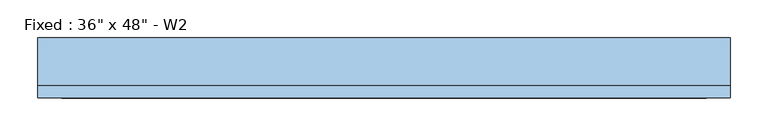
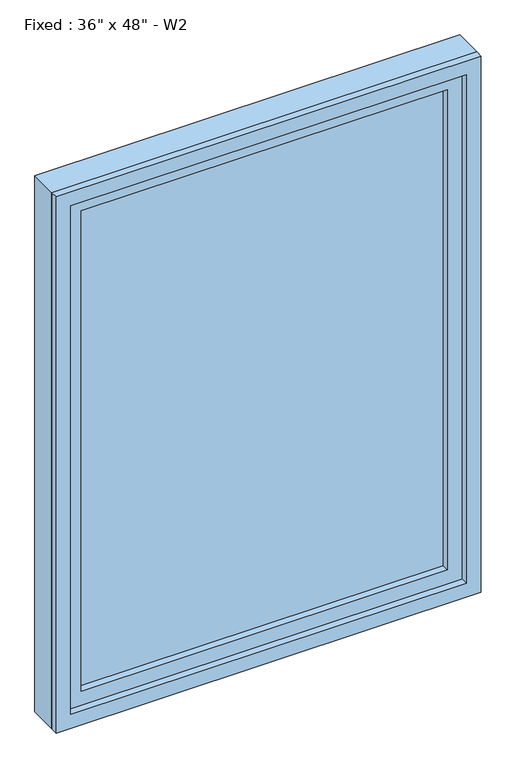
"""IFC4 building model written with IfcOpenShell, lengths in millimetres: window geometry."""

from ifc_helpers import new_model, si_unit, frame, origin, place, context, project, spatial, polyline, outline, extrude, source, transform, mapped, element, save


def window_74e4fc61(model_context):
    return source(origin(), model_context, "Body", "SweptSolid", [
        extrude(outline(polyline([(355.6, -7.9375), (-431.8, -7.9375), (-431.8, 4.7625), (355.6, 4.7625), (355.6, -7.9375)])), frame((0.0, 0.0, 977.9), z_axis=(0.0, 0.0, 1.0), x_axis=(1.0, 0.0, 0.0)), (0.0, 0.0, 1.0), 1092.2),
        extrude(outline(polyline([(2114.55, -476.25), (933.45, -476.25), (933.45, 400.05), (2114.55, 400.05), (2114.55, -476.25)]), holes=[polyline([(2070.1, -431.8), (2070.1, 355.6), (977.9, 355.6), (977.9, -431.8), (2070.1, -431.8)])]), frame((0.0, -23.8125, 0.0), z_axis=(0.0, 1.0, 0.0), x_axis=(0.0, 0.0, 1.0)), (0.0, 0.0, 1.0), 44.45),
        extrude(outline(polyline([(2133.6, -495.3), (914.4, -495.3), (914.4, 419.1), (2133.6, 419.1), (2133.6, -495.3)]), holes=[polyline([(2101.85, -463.55), (2101.85, 387.35), (946.15, 387.35), (946.15, -463.55), (2101.85, -463.55)])]), frame((0.0, -39.6875, 0.0), z_axis=(0.0, 1.0, 0.0), x_axis=(0.0, 0.0, 1.0)), (0.0, 0.0, 1.0), 15.875),
        extrude(outline(polyline([(2133.6, 419.1), (2133.6, -495.3), (914.4, -495.3), (914.4, 419.1), (2133.6, 419.1)]), holes=[polyline([(2114.55, 400.05), (933.45, 400.05), (933.45, -476.25), (2114.55, -476.25), (2114.55, 400.05)])]), frame((0.0, -23.8125, 0.0), z_axis=(0.0, 1.0, 0.0), x_axis=(0.0, 0.0, 1.0)), (0.0, 0.0, 1.0), 63.5),
    ])


if __name__ == "__main__":
    model = new_model("IFC4")
    model_context = context("Model", 3, world=origin())
    ifc_project = project(units=[si_unit("LENGTHUNIT", "METRE", prefix="MILLI")], contexts=[model_context])
    site = spatial("IfcSite", under=ifc_project)
    building = spatial("IfcBuilding", under=site)
    placement = place(None, origin())
    window_shape = window_74e4fc61(model_context)
    element("IfcWindow", 1, ObjectType="Fixed : 36\" x 48\" - W2", at=placement, inside=building, context=model_context, shape_type="MappedRepresentation", body=[
        mapped(window_shape, transform((0.0, 0.0, 0.0), x_axis=(1.0, 0.0, 0.0), y_axis=(0.0, 1.0, 0.0), z_axis=(0.0, 0.0, 1.0))),
    ])
    save(model, "model.ifc")
